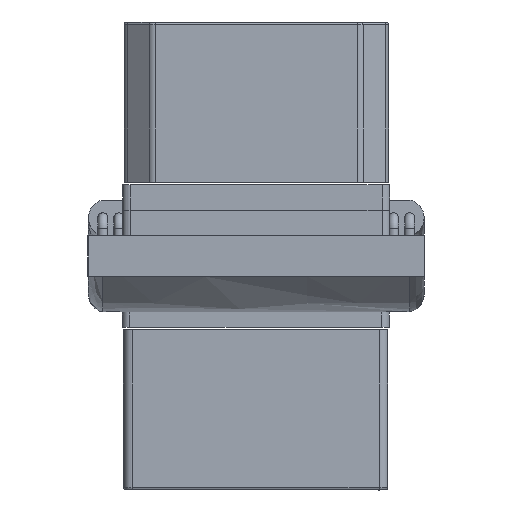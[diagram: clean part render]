
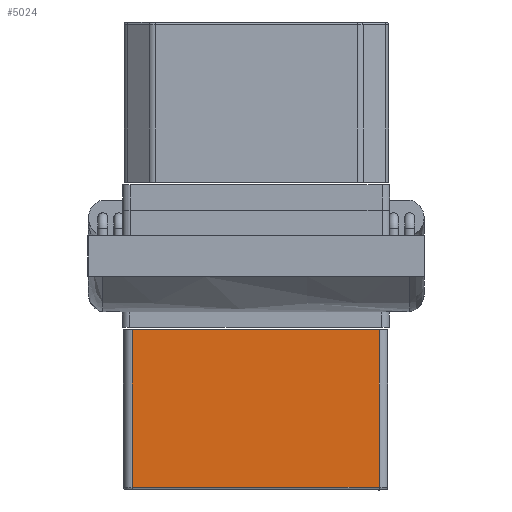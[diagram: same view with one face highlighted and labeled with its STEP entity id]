
A CAD part, front view. The second image highlights one B-rep face of the part: STEP entity #5024.
In plain terms, the highlighted planar face has unit normal (0, -1, 0).
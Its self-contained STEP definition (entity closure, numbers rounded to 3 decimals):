
#3955 = VERTEX_POINT('',#3956);
#3956 = CARTESIAN_POINT('',(-4.85,-5.4,6.3));
#3963 = EDGE_CURVE('',#3964,#3955,#3966,.T.);
#3964 = VERTEX_POINT('',#3965);
#3965 = CARTESIAN_POINT('',(4.85,-5.4,6.3));
#3966 = LINE('',#3967,#3968);
#3967 = CARTESIAN_POINT('',(5.2,-5.4,6.3));
#3968 = VECTOR('',#3969,1.);
#3969 = DIRECTION('',(-1.,0.,0.));
#5024 = ADVANCED_FACE('',(#5025),#5050,.F.);
#5025 = FACE_BOUND('',#5026,.T.);
#5026 = EDGE_LOOP('',(#5027,#5035,#5043,#5049));
#5027 = ORIENTED_EDGE('',*,*,#5028,.T.);
#5028 = EDGE_CURVE('',#3955,#5029,#5031,.T.);
#5029 = VERTEX_POINT('',#5030);
#5030 = CARTESIAN_POINT('',(-4.85,-5.4,0.1));
#5031 = LINE('',#5032,#5033);
#5032 = CARTESIAN_POINT('',(-4.85,-5.4,0.));
#5033 = VECTOR('',#5034,1.);
#5034 = DIRECTION('',(0.,0.,-1.));
#5035 = ORIENTED_EDGE('',*,*,#5036,.T.);
#5036 = EDGE_CURVE('',#5029,#5037,#5039,.T.);
#5037 = VERTEX_POINT('',#5038);
#5038 = CARTESIAN_POINT('',(4.85,-5.4,0.1));
#5039 = LINE('',#5040,#5041);
#5040 = CARTESIAN_POINT('',(4.85,-5.4,0.1));
#5041 = VECTOR('',#5042,1.);
#5042 = DIRECTION('',(1.,0.,0.));
#5043 = ORIENTED_EDGE('',*,*,#5044,.T.);
#5044 = EDGE_CURVE('',#5037,#3964,#5045,.T.);
#5045 = LINE('',#5046,#5047);
#5046 = CARTESIAN_POINT('',(4.85,-5.4,0.));
#5047 = VECTOR('',#5048,1.);
#5048 = DIRECTION('',(0.,0.,1.));
#5049 = ORIENTED_EDGE('',*,*,#3963,.T.);
#5050 = PLANE('',#5051);
#5051 = AXIS2_PLACEMENT_3D('',#5052,#5053,#5054);
#5052 = CARTESIAN_POINT('',(5.2,-5.4,0.));
#5053 = DIRECTION('',(0.,1.,0.));
#5054 = DIRECTION('',(0.,0.,1.));
